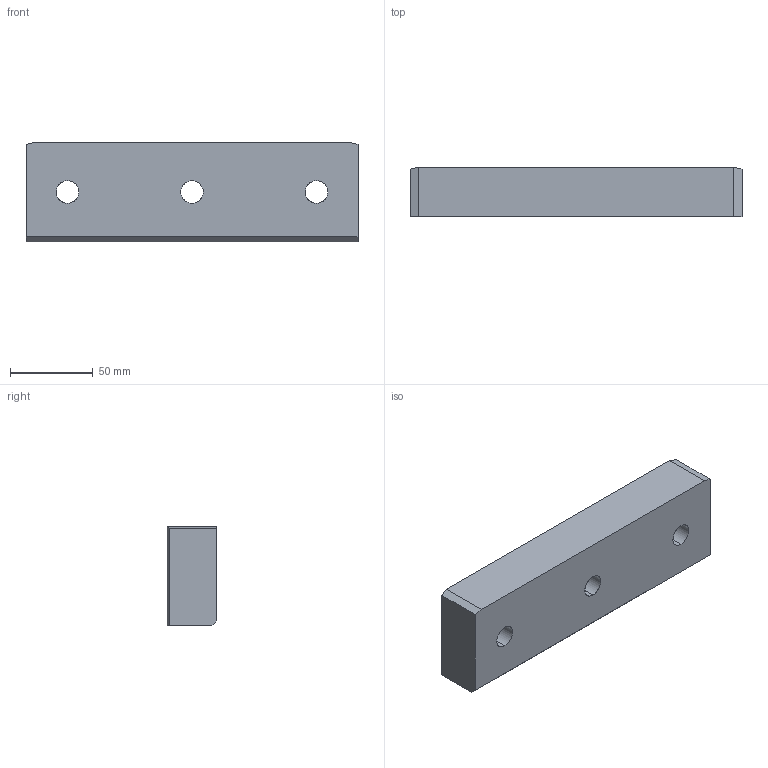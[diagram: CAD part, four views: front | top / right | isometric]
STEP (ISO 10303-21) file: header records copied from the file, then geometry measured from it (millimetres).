
FILE_DESCRIPTION(('CATIA V5 STEP Exchange'),'2;1');
FILE_NAME('C:\Users\Utente\Desktop\3D files A609\A609-030-200.stp','2020-04-13T19:47:25+00:00',('none'),('none'),'CATIA Version 5 Release 20 GA (IN-10)','CATIA V5 STEP AP203','none');
FILE_SCHEMA(('CONFIG_CONTROL_DESIGN'));
Length unit declared in the file: millimetre
Products named in the file (1): Noname
Bounding box: 200 x 30 x 60 mm (x, y, z)
Surface area: 42761 mm2 (no closed solid volume)
Topology: 0 solids, 20 shells, 26 faces, 110 edges, 98 vertices
Faces by surface type: extrusion 14, cylinder 12
Entity records: 1474 total; most frequent: CARTESIAN_POINT 595, ORIENTED_EDGE 122, DIRECTION 114, EDGE_CURVE 110, VERTEX_POINT 98, VECTOR 66, LINE 52, B_SPLINE_CURVE_WITH_KNOTS 48
